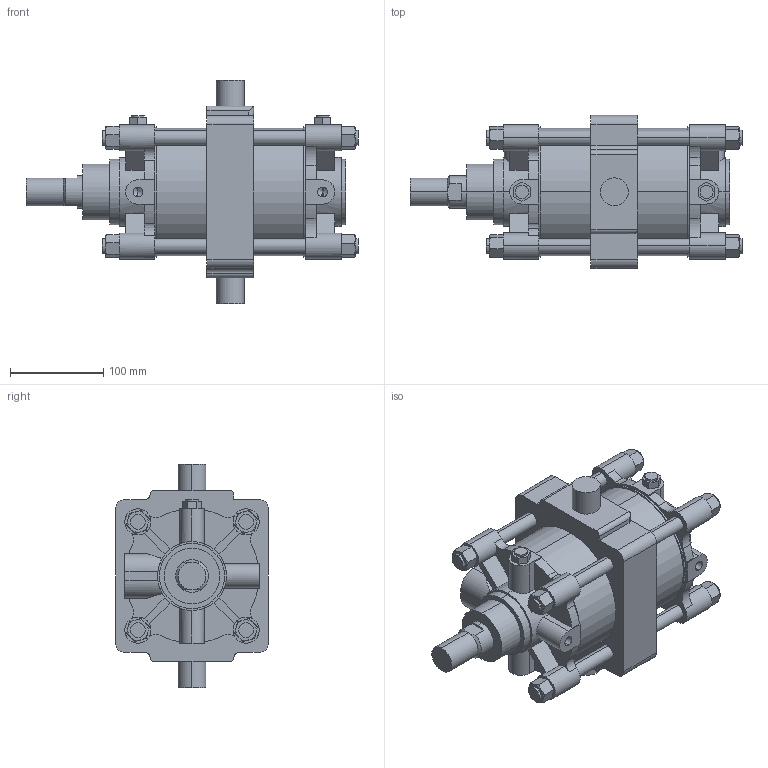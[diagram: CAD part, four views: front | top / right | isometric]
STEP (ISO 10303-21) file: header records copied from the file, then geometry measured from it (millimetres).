
FILE_DESCRIPTION (( 'STEP AP203' ), '1' );
FILE_NAME ('A##2-125#-100-T.STEP', '2016-03-31T06:51:51', ( '' ), ( '' ), 'SwSTEP 2.0', 'SolidWorks 2014', '' );
FILE_SCHEMA (( 'CONFIG_CONTROL_DESIGN' ));
Length unit declared in the file: millimetre
Products named in the file (7): A125-B; A##2-125#-100-T; A125-T; A125-100; A125-A
Assembly tree (16 placements, depth 2):
  A##2-125#-100-T
    A125-B
    A125-100
    A125-A
    (unnamed)  x8
    (unnamed)  x4
    A125-T
Bounding box: 356 x 164 x 240 mm (x, y, z)
Volume: 4358795.7 mm3; surface area: 448947.6 mm2
Topology: 16 solids, 18 shells, 425 faces, 1070 edges, 685 vertices
Faces by surface type: plane 197, cylinder 166, torus 48, cone 14
Entity records: 10952 total; most frequent: CARTESIAN_POINT 2169, DIRECTION 1735, ORIENTED_EDGE 1576, EDGE_CURVE 788, AXIS2_PLACEMENT_3D 662, VERTEX_POINT 519, VECTOR 411, LINE 411
